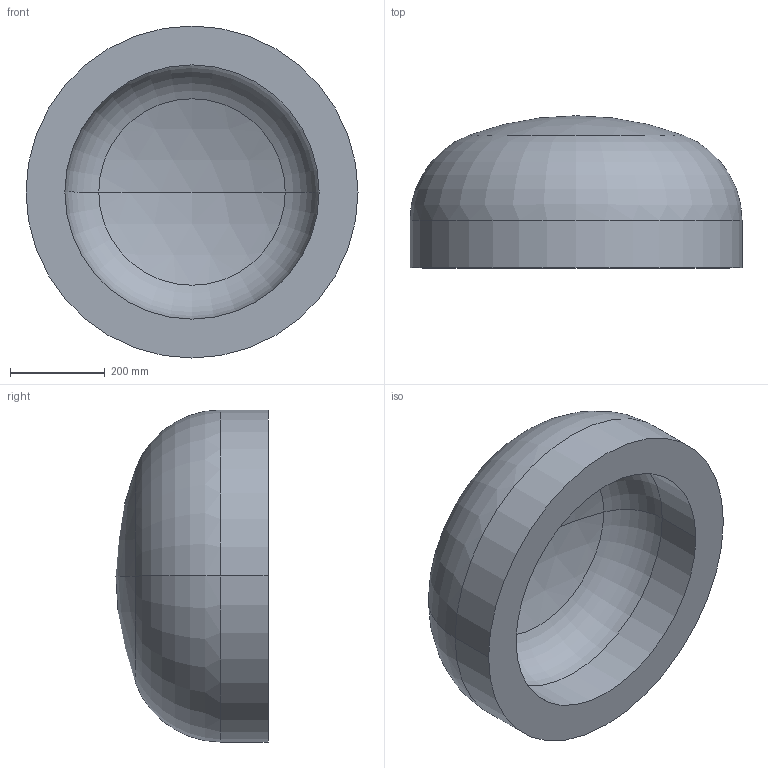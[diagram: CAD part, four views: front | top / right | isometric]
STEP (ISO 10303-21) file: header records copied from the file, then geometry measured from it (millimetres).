
FILE_DESCRIPTION (( 'STEP AP203' ), '1' );
FILE_NAME ('DIN 28013 Korbbogenform_-_Boden DIN 28013 - 700 x 100 - I - s=82.step', '2016-07-01T08:10:51', ( '' ), ( '' ), 'SwSTEP 2.0', 'SolidWorks 2013', '' );
FILE_SCHEMA (( 'CONFIG_CONTROL_DESIGN' ));
Length unit declared in the file: millimetre
Products named in the file (1): DIN 28013 Korbbogenform_-_Boden DIN 28013 - 700 x 100 - I - s=82
Bounding box: 700 x 320.65 x 700 mm (x, y, z)
Volume: 53955398.6 mm3; surface area: 1489271.3 mm2
Topology: 1 solids, 1 shells, 13 faces, 24 edges, 14 vertices
Faces by surface type: torus 4, cylinder 4, sphere 4, plane 1
Entity records: 407 total; most frequent: DIRECTION 72, CARTESIAN_POINT 52, ORIENTED_EDGE 48, AXIS2_PLACEMENT_3D 34, EDGE_CURVE 24, CIRCLE 20, EDGE_LOOP 14, VERTEX_POINT 14
